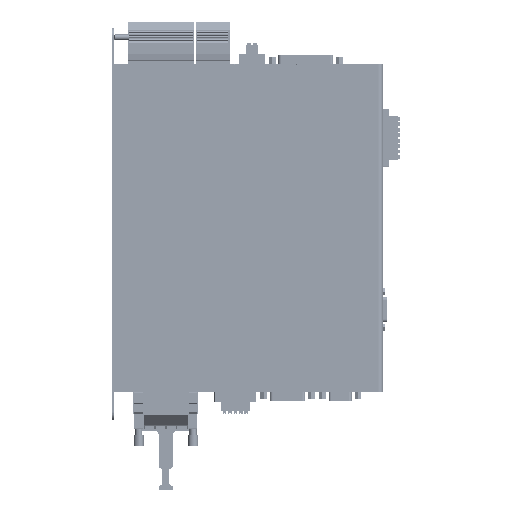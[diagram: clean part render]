
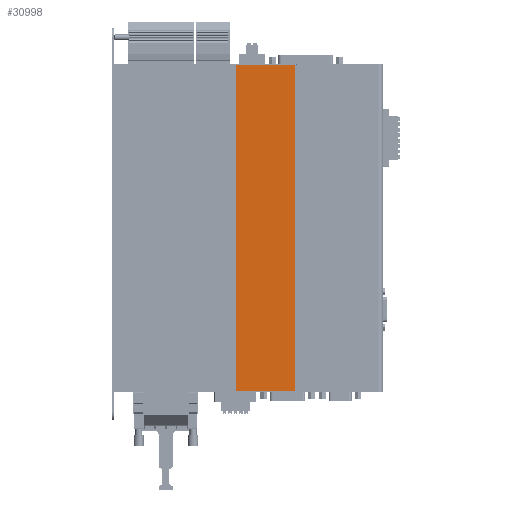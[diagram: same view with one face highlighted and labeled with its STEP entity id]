
A CAD part, left-side view. The second image highlights one B-rep face of the part: STEP entity #30998.
In plain terms, the highlighted planar face has unit normal (-1, 0, 0).
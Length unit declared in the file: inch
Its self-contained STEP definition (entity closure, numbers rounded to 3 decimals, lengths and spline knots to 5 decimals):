
#30998=ADVANCED_FACE('',(#68884),#68885,.T.);
#68884=FACE_OUTER_BOUND('',#126761,.T.);
#68885=PLANE('',#126762);
#126761=EDGE_LOOP('',(#208431,#208432,#208433,#208434));
#126762=AXIS2_PLACEMENT_3D('',#208435,#208436,#208437);
#208431=ORIENTED_EDGE('',*,*,#336174,.F.);
#208432=ORIENTED_EDGE('',*,*,#336175,.T.);
#208433=ORIENTED_EDGE('',*,*,#332270,.T.);
#208434=ORIENTED_EDGE('',*,*,#336176,.T.);
#208435=CARTESIAN_POINT('',(-6.01378,-12.8189,0.50591));
#208436=DIRECTION('',(-1.0,0.0,0.));
#208437=DIRECTION('',(0.,0.,-1.0));
#332270=EDGE_CURVE('',#392083,#392084,#392085,.T.);
#336174=EDGE_CURVE('',#398993,#398994,#398995,.T.);
#336175=EDGE_CURVE('',#398993,#392083,#398996,.T.);
#336176=EDGE_CURVE('',#392084,#398994,#398997,.T.);
#392083=VERTEX_POINT('',#481376);
#392084=VERTEX_POINT('',#481377);
#392085=LINE('',#481378,#481379);
#398993=VERTEX_POINT('',#491772);
#398994=VERTEX_POINT('',#491773);
#398995=LINE('',#491774,#491775);
#398996=LINE('',#491776,#491777);
#398997=LINE('',#491778,#491779);
#481376=CARTESIAN_POINT('',(-6.01378,-11.94291,4.99409));
#481377=CARTESIAN_POINT('',(-6.01378,-11.94291,-3.98228));
#481378=CARTESIAN_POINT('',(-6.01378,-11.94291,0.50591));
#481379=VECTOR('',#608872,0.03937);
#491772=CARTESIAN_POINT('',(-6.01378,-13.69488,4.99409));
#491773=CARTESIAN_POINT('',(-6.01378,-13.69488,-3.98228));
#491774=CARTESIAN_POINT('',(-6.01378,-13.69488,0.50591));
#491775=VECTOR('',#613456,0.03937);
#491776=CARTESIAN_POINT('',(-6.01378,-12.8189,4.99409));
#491777=VECTOR('',#613457,0.03937);
#491778=CARTESIAN_POINT('',(-6.01378,-12.8189,-3.98228));
#491779=VECTOR('',#613458,0.03937);
#608872=DIRECTION('',(0.,0.,-1.0));
#613456=DIRECTION('',(0.,0.,-1.0));
#613457=DIRECTION('',(0.,1.0,0.));
#613458=DIRECTION('',(0.,-1.0,0.));
